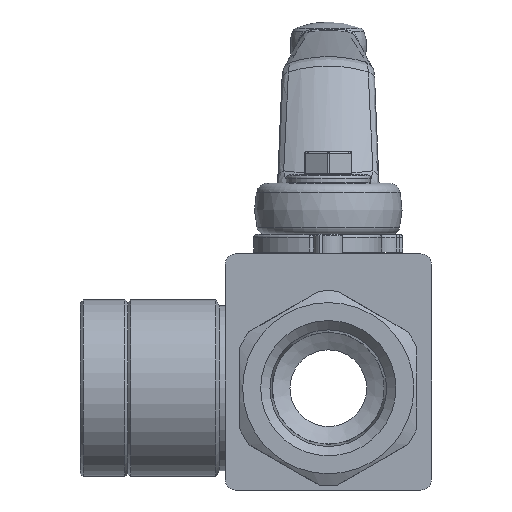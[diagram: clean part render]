
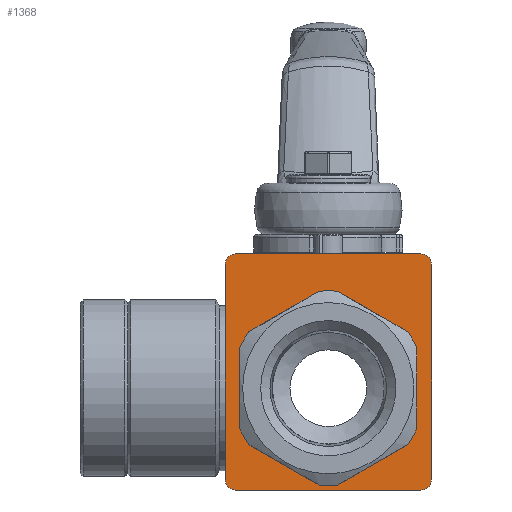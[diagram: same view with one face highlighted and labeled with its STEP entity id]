
A CAD part, front view. The second image highlights one B-rep face of the part: STEP entity #1368.
In plain terms, the highlighted planar face has unit normal (0, -1, 0).
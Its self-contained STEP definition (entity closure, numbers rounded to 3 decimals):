
#1368 = ADVANCED_FACE( '', ( #2703, #2704 ), #2705, .T. );
#2703 = FACE_BOUND( '', #5101, .T. );
#2704 = FACE_OUTER_BOUND( '', #5102, .T. );
#2705 = PLANE( '', #5103 );
#5101 = EDGE_LOOP( '', ( #8392 ) );
#5102 = EDGE_LOOP( '', ( #8393, #8394, #8395, #8396, #8397, #8398, #8399, #8400 ) );
#5103 = AXIS2_PLACEMENT_3D( '', #8401, #8402, #8403 );
#8392 = ORIENTED_EDGE( '', *, *, #9782, .F. );
#8393 = ORIENTED_EDGE( '', *, *, #9591, .T. );
#8394 = ORIENTED_EDGE( '', *, *, #9069, .T. );
#8395 = ORIENTED_EDGE( '', *, *, #8894, .T. );
#8396 = ORIENTED_EDGE( '', *, *, #9383, .T. );
#8397 = ORIENTED_EDGE( '', *, *, #9677, .T. );
#8398 = ORIENTED_EDGE( '', *, *, #9115, .T. );
#8399 = ORIENTED_EDGE( '', *, *, #9769, .T. );
#8400 = ORIENTED_EDGE( '', *, *, #8852, .T. );
#8401 = CARTESIAN_POINT( '', ( -17.5, -24.1, -17.25 ) );
#8402 = DIRECTION( '', ( 0., -1., 0. ) );
#8403 = DIRECTION( '', ( 0., 0., -1. ) );
#8852 = EDGE_CURVE( '', #10402, #10403, #10404, .T. );
#8894 = EDGE_CURVE( '', #10476, #10477, #10478, .T. );
#9069 = EDGE_CURVE( '', #10750, #10476, #10751, .T. );
#9115 = EDGE_CURVE( '', #10821, #10822, #10823, .T. );
#9383 = EDGE_CURVE( '', #10477, #11207, #11208, .T. );
#9591 = EDGE_CURVE( '', #10403, #10750, #11461, .T. );
#9677 = EDGE_CURVE( '', #11207, #10821, #11559, .T. );
#9769 = EDGE_CURVE( '', #10822, #10402, #11657, .T. );
#9782 = EDGE_CURVE( '', #11671, #11671, #11672, .T. );
#10402 = VERTEX_POINT( '', #12802 );
#10403 = VERTEX_POINT( '', #12803 );
#10404 = CIRCLE( '', #12804, 1.8 );
#10476 = VERTEX_POINT( '', #12965 );
#10477 = VERTEX_POINT( '', #12966 );
#10478 = LINE( '', #12967, #12968 );
#10750 = VERTEX_POINT( '', #13555 );
#10751 = CIRCLE( '', #13556, 1.8 );
#10821 = VERTEX_POINT( '', #13710 );
#10822 = VERTEX_POINT( '', #13711 );
#10823 = CIRCLE( '', #13712, 1.8 );
#11207 = VERTEX_POINT( '', #14512 );
#11208 = CIRCLE( '', #14513, 1.8 );
#11461 = LINE( '', #14970, #14971 );
#11559 = LINE( '', #15112, #15113 );
#11657 = LINE( '', #15305, #15306 );
#11671 = VERTEX_POINT( '', #15335 );
#11672 = CIRCLE( '', #15336, 15. );
#12802 = CARTESIAN_POINT( '', ( 15.7, -24.1, -17.25 ) );
#12803 = CARTESIAN_POINT( '', ( 17.5, -24.1, -15.45 ) );
#12804 = AXIS2_PLACEMENT_3D( '', #15887, #15888, #15889 );
#12965 = CARTESIAN_POINT( '', ( 15.7, -24.1, 22.75 ) );
#12966 = CARTESIAN_POINT( '', ( -15.7, -24.1, 22.75 ) );
#12967 = CARTESIAN_POINT( '', ( 17.5, -24.1, 22.75 ) );
#12968 = VECTOR( '', #15930, 1000. );
#13555 = CARTESIAN_POINT( '', ( 17.5, -24.1, 20.95 ) );
#13556 = AXIS2_PLACEMENT_3D( '', #16165, #16166, #16167 );
#13710 = CARTESIAN_POINT( '', ( -17.5, -24.1, -15.45 ) );
#13711 = CARTESIAN_POINT( '', ( -15.7, -24.1, -17.25 ) );
#13712 = AXIS2_PLACEMENT_3D( '', #16226, #16227, #16228 );
#14512 = CARTESIAN_POINT( '', ( -17.5, -24.1, 20.95 ) );
#14513 = AXIS2_PLACEMENT_3D( '', #16581, #16582, #16583 );
#14970 = CARTESIAN_POINT( '', ( 17.5, -24.1, -17.25 ) );
#14971 = VECTOR( '', #16812, 1000. );
#15112 = CARTESIAN_POINT( '', ( -17.5, -24.1, 22.75 ) );
#15113 = VECTOR( '', #16900, 1000. );
#15305 = CARTESIAN_POINT( '', ( -17.5, -24.1, -17.25 ) );
#15306 = VECTOR( '', #16975, 1000. );
#15335 = CARTESIAN_POINT( '', ( 15., -24.1, 0. ) );
#15336 = AXIS2_PLACEMENT_3D( '', #16988, #16989, #16990 );
#15887 = CARTESIAN_POINT( '', ( 15.7, -24.1, -15.45 ) );
#15888 = DIRECTION( '', ( 0., -1., 0. ) );
#15889 = DIRECTION( '', ( 0., 0., -1. ) );
#15930 = DIRECTION( '', ( -1., 0., 0. ) );
#16165 = CARTESIAN_POINT( '', ( 15.7, -24.1, 20.95 ) );
#16166 = DIRECTION( '', ( 0., -1., 0. ) );
#16167 = DIRECTION( '', ( 0., 0., -1. ) );
#16226 = CARTESIAN_POINT( '', ( -15.7, -24.1, -15.45 ) );
#16227 = DIRECTION( '', ( 0., -1., 0. ) );
#16228 = DIRECTION( '', ( 0., 0., -1. ) );
#16581 = CARTESIAN_POINT( '', ( -15.7, -24.1, 20.95 ) );
#16582 = DIRECTION( '', ( 0., -1., 0. ) );
#16583 = DIRECTION( '', ( 0., 0., -1. ) );
#16812 = DIRECTION( '', ( 0., 0., 1. ) );
#16900 = DIRECTION( '', ( 0., 0., -1. ) );
#16975 = DIRECTION( '', ( 1., 0., 0. ) );
#16988 = CARTESIAN_POINT( '', ( 0., -24.1, 0. ) );
#16989 = DIRECTION( '', ( 0., -1., 0. ) );
#16990 = DIRECTION( '', ( 1., 0., 0. ) );
